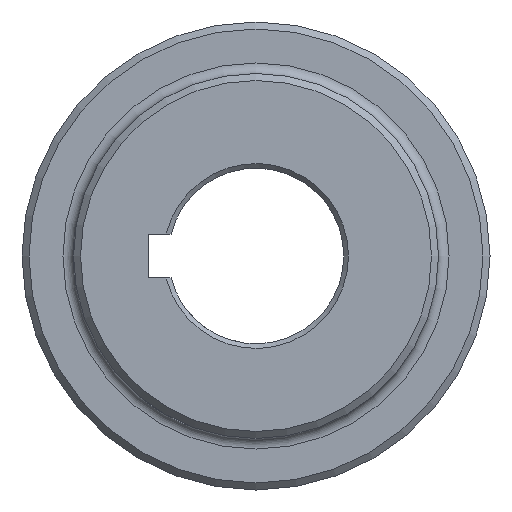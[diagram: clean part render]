
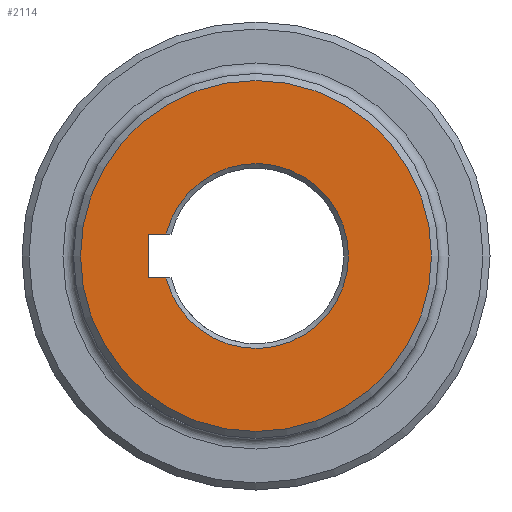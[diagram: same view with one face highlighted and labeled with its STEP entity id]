
A CAD part, left-side view. The second image highlights one B-rep face of the part: STEP entity #2114.
In plain terms, the highlighted planar face has unit normal (-1, 0, 0).
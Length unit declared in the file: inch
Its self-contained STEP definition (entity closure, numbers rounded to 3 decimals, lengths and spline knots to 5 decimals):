
#5 = EDGE_CURVE ( 'NONE', #1640, #1027, #718, .T. ) ;
#63 = VECTOR ( 'NONE', #325, 39.37008 ) ;
#108 = DIRECTION ( 'NONE',  ( 0., 0., -1. ) ) ;
#118 = CARTESIAN_POINT ( 'NONE',  ( 0., 0.91975, -0.1875 ) ) ;
#144 = CARTESIAN_POINT ( 'NONE',  ( 0., 0., 0. ) ) ;
#223 = EDGE_CURVE ( 'NONE', #277, #401, #1213, .T. ) ;
#241 = EDGE_CURVE ( 'NONE', #277, #1027, #1740, .T. ) ;
#277 = VERTEX_POINT ( 'NONE', #2157 ) ;
#284 = CARTESIAN_POINT ( 'NONE',  ( 0., 0., -0.1875 ) ) ;
#325 = DIRECTION ( 'NONE',  ( 0., 0., -1. ) ) ;
#357 = CARTESIAN_POINT ( 'NONE',  ( 0., 0., 0. ) ) ;
#401 = VERTEX_POINT ( 'NONE', #1842 ) ;
#503 = AXIS2_PLACEMENT_3D ( 'NONE', #144, #1983, #108 ) ;
#515 = EDGE_LOOP ( 'NONE', ( #2066, #934, #2253, #1340 ) ) ;
#563 = EDGE_LOOP ( 'NONE', ( #2142 ) ) ;
#581 = FACE_OUTER_BOUND ( 'NONE', #563, .T. ) ;
#596 = CARTESIAN_POINT ( 'NONE',  ( 0., 0.76768, -0.1875 ) ) ;
#628 = CARTESIAN_POINT ( 'NONE',  ( 0., 0., -1.5 ) ) ;
#718 = LINE ( 'NONE', #284, #1694 ) ;
#797 = CARTESIAN_POINT ( 'NONE',  ( 0., 0., 0.1875 ) ) ;
#823 = PLANE ( 'NONE',  #978 ) ;
#934 = ORIENTED_EDGE ( 'NONE', *, *, #241, .T. ) ;
#978 = AXIS2_PLACEMENT_3D ( 'NONE', #357, #2255, #2108 ) ;
#1027 = VERTEX_POINT ( 'NONE', #596 ) ;
#1065 = AXIS2_PLACEMENT_3D ( 'NONE', #1113, #1827, #1726 ) ;
#1067 = CARTESIAN_POINT ( 'NONE',  ( 0., 0.91975, -0.1875 ) ) ;
#1108 = VERTEX_POINT ( 'NONE', #628 ) ;
#1113 = CARTESIAN_POINT ( 'NONE',  ( 0., 0., 0. ) ) ;
#1165 = VECTOR ( 'NONE', #2225, 39.37008 ) ;
#1213 = LINE ( 'NONE', #797, #1165 ) ;
#1340 = ORIENTED_EDGE ( 'NONE', *, *, #2203, .F. ) ;
#1350 = EDGE_CURVE ( 'NONE', #1108, #1108, #1446, .T. ) ;
#1446 = CIRCLE ( 'NONE', #503, 1.5 ) ;
#1640 = VERTEX_POINT ( 'NONE', #118 ) ;
#1694 = VECTOR ( 'NONE', #2168, 39.37008 ) ;
#1726 = DIRECTION ( 'NONE',  ( 0., 0., -1. ) ) ;
#1740 = CIRCLE ( 'NONE', #1065, 0.79025 ) ;
#1827 = DIRECTION ( 'NONE',  ( 1., 0., 0. ) ) ;
#1842 = CARTESIAN_POINT ( 'NONE',  ( 0., 0.91975, 0.1875 ) ) ;
#1858 = FACE_BOUND ( 'NONE', #515, .T. ) ;
#1983 = DIRECTION ( 'NONE',  ( -1., 0., 0. ) ) ;
#2060 = LINE ( 'NONE', #1067, #63 ) ;
#2066 = ORIENTED_EDGE ( 'NONE', *, *, #223, .F. ) ;
#2108 = DIRECTION ( 'NONE',  ( 0., 0., -1. ) ) ;
#2114 = ADVANCED_FACE ( 'NONE', ( #581, #1858 ), #823, .F. ) ;
#2142 = ORIENTED_EDGE ( 'NONE', *, *, #1350, .T. ) ;
#2157 = CARTESIAN_POINT ( 'NONE',  ( 0., 0.76768, 0.1875 ) ) ;
#2168 = DIRECTION ( 'NONE',  ( 0., -1., 0. ) ) ;
#2203 = EDGE_CURVE ( 'NONE', #401, #1640, #2060, .T. ) ;
#2225 = DIRECTION ( 'NONE',  ( 0., 1., 0. ) ) ;
#2253 = ORIENTED_EDGE ( 'NONE', *, *, #5, .F. ) ;
#2255 = DIRECTION ( 'NONE',  ( 1., 0., 0. ) ) ;
